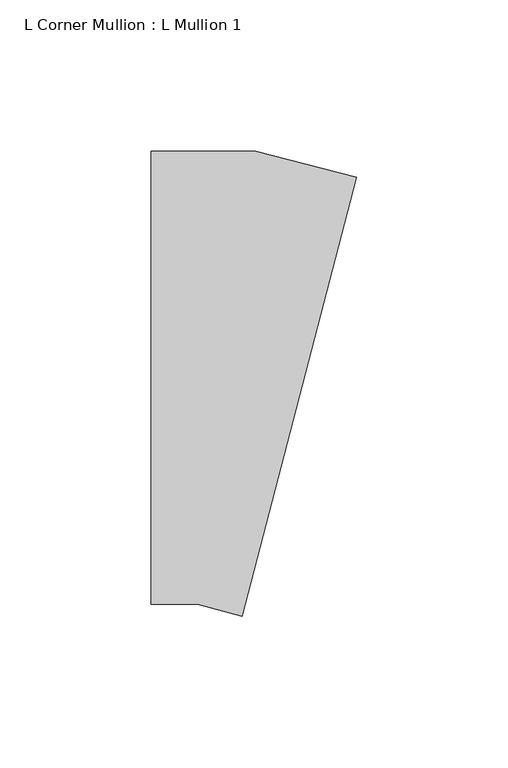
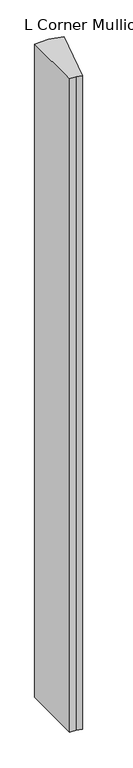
"""IFC4 building model written with IfcOpenShell, lengths in millimetres: member geometry, L Corner Mullion : L Mullion 1."""

from ifc_helpers import new_model, si_unit, frame, origin, place, context, project, spatial, polyline, outline, extrude, source, transform, mapped, element, save


def l_corner_mullion_l_mullion_1_c08bf771(model_context):
    return source(origin(), model_context, "Body", "SweptSolid", [
        extrude(outline(polyline([(5.2473906, -78.882602), (-9.6271163, -75.0), (-25.0, -75.0), (-25.0, 75.0), (9.6271163, 75.0), (43.1316487, 66.2545159), (5.2473906, -78.882602)])), frame((0.0, 0.0, -1712.4734099), z_axis=(0.0, 0.0, 1.0), x_axis=(1.0, 0.0, 0.0)), (0.0, 0.0, 1.0), 1712.4734099),
    ])


if __name__ == "__main__":
    model = new_model("IFC4")
    model_context = context("Model", 3, world=origin())
    ifc_project = project(units=[si_unit("LENGTHUNIT", "METRE", prefix="MILLI")], contexts=[model_context])
    site = spatial("IfcSite", under=ifc_project)
    building = spatial("IfcBuilding", under=site)
    placement = place(None, origin())
    l_corner_mullion_l_mullion_1_shape = l_corner_mullion_l_mullion_1_c08bf771(model_context)
    element("IfcMember", 1, ObjectType="L Corner Mullion : L Mullion 1", at=placement, inside=building, context=model_context, shape_type="MappedRepresentation", body=[
        mapped(l_corner_mullion_l_mullion_1_shape, transform((0.0, 0.0, 0.0), x_axis=(1.0, 0.0, 0.0), y_axis=(0.0, 1.0, 0.0), z_axis=(0.0, 0.0, 1.0))),
    ])
    save(model, "model.ifc")
